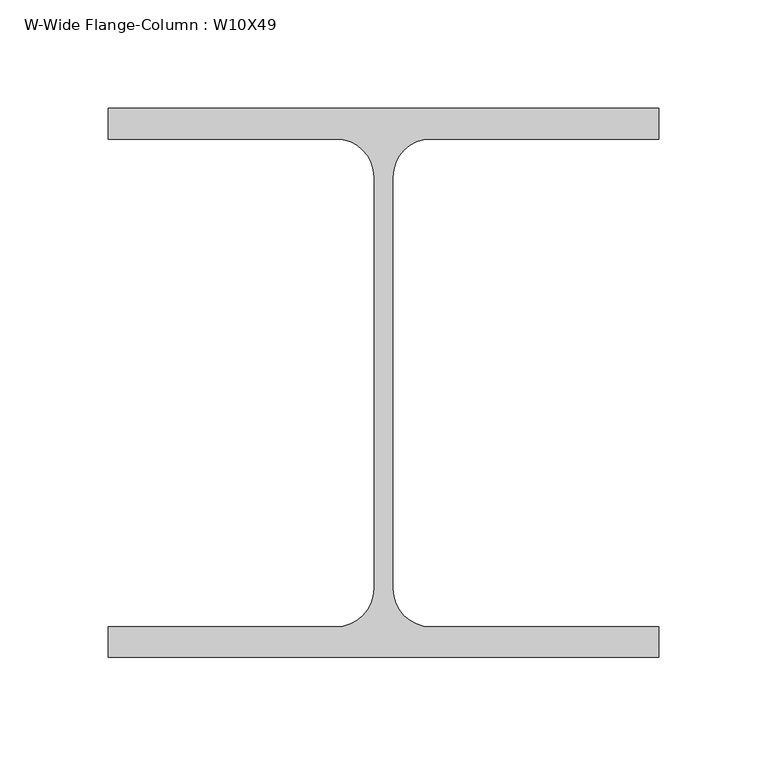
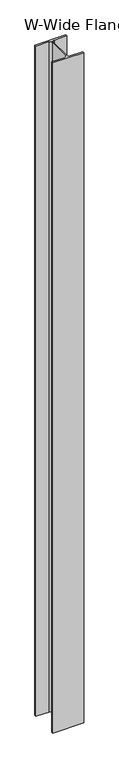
"""IFC4 building model written with IfcOpenShell, lengths in millimetres: column geometry, W-Wide Flange-Column : W10X49."""

from ifc_helpers import new_model, si_unit, point, frame_2d, origin, origin_with_axes, place, context, project, spatial, polyline, circle_curve, trimmed, segment, composite_curve, outline, extrude, source, transform, mapped, element, save


def w_wide_flange_column_w10x49_a6c59e3f(model_context):
    return source(origin(), model_context, "Body", "SweptSolid", [
        extrude(outline(composite_curve([segment(polyline([(127.0, 126.7519531), (127.0, 112.5636719), (21.8777344, 112.5636719)]), True, "CONTINUOUS"), segment(trimmed(circle_curve(frame_2d((21.8777344, 95.0019531)), 17.5617188), [point((21.8777344, 112.5636719))], [point((4.3160156, 95.0019531))], True, "CARTESIAN"), True, "CONTINUOUS"), segment(polyline([(4.3160156, 95.0019531), (4.3160156, -95.0019531)]), True, "CONTINUOUS"), segment(trimmed(circle_curve(frame_2d((21.8777344, -95.0019531)), 17.5617187), [point((4.3160156, -95.0019531))], [point((21.8777344, -112.5636719))], True, "CARTESIAN"), True, "CONTINUOUS"), segment(polyline([(21.8777344, -112.5636719), (127.0, -112.5636719), (127.0, -126.7519531), (-127.0, -126.7519531), (-127.0, -112.5636719), (-21.8777344, -112.5636719)]), True, "CONTINUOUS"), segment(trimmed(circle_curve(frame_2d((-21.8777344, -95.0019531)), 17.5617187), [point((-21.8777344, -112.5636719))], [point((-4.3160156, -95.0019531))], True, "CARTESIAN"), True, "CONTINUOUS"), segment(polyline([(-4.3160156, -95.0019531), (-4.3160156, 95.0019531)]), True, "CONTINUOUS"), segment(trimmed(circle_curve(frame_2d((-21.8777344, 95.0019531)), 17.5617188), [point((-4.3160156, 95.0019531))], [point((-21.8777344, 112.5636719))], True, "CARTESIAN"), True, "CONTINUOUS"), segment(polyline([(-21.8777344, 112.5636719), (-127.0, 112.5636719), (-127.0, 126.7519531), (127.0, 126.7519531)]), True, "CONTINUOUS")], self_intersect=False)), origin_with_axes(), (0.0, 0.0, 1.0), 5791.2),
    ])


if __name__ == "__main__":
    model = new_model("IFC4")
    model_context = context("Model", 3, world=origin())
    ifc_project = project(units=[si_unit("LENGTHUNIT", "METRE", prefix="MILLI")], contexts=[model_context])
    site = spatial("IfcSite", under=ifc_project)
    building = spatial("IfcBuilding", under=site)
    placement = place(None, origin())
    w_wide_flange_column_w10x49_shape = w_wide_flange_column_w10x49_a6c59e3f(model_context)
    element("IfcColumn", 1, ObjectType="W-Wide Flange-Column : W10X49", at=placement, inside=building, context=model_context, shape_type="MappedRepresentation", body=[
        mapped(w_wide_flange_column_w10x49_shape, transform((0.0, 0.0, 0.0), x_axis=(1.0, 0.0, 0.0), y_axis=(0.0, 1.0, 0.0), z_axis=(0.0, 0.0, 1.0))),
    ])
    save(model, "model.ifc")
